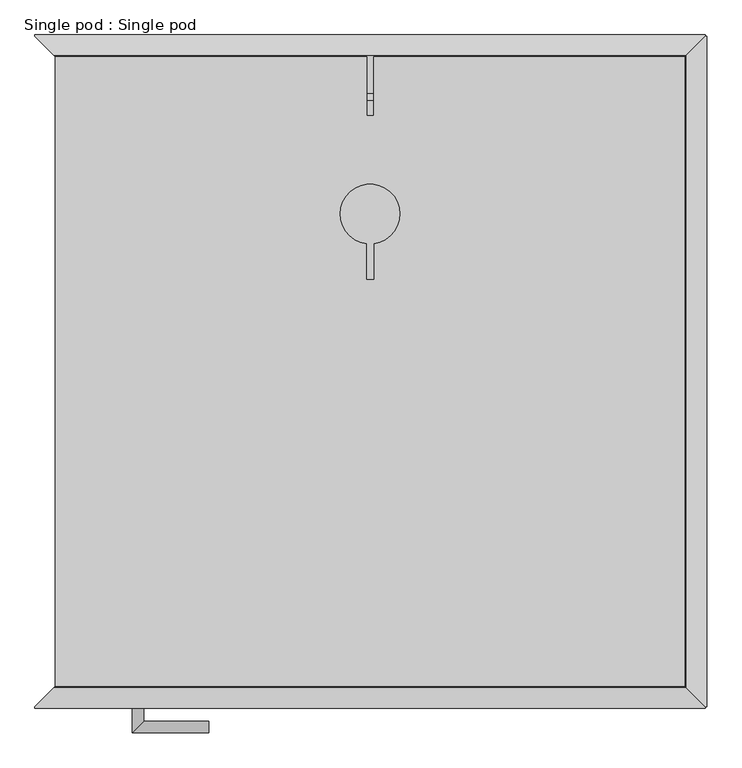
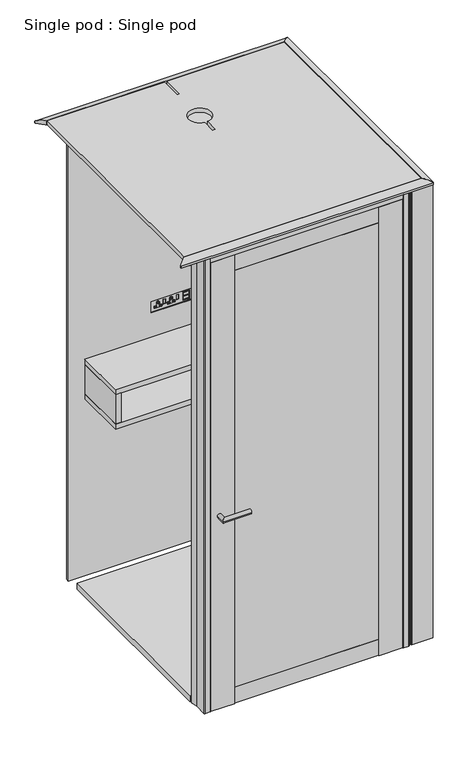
"""IFC4 building model written with IfcOpenShell, lengths in millimetres: furniture geometry, Single pod : Single pod."""

from ifc_helpers import new_model, si_unit, point, frame, frame_2d, origin, place, context, project, spatial, polyline, circle_curve, ellipse_curve, trimmed, segment, composite_curve, outline, extrude, source, transform, mapped, element, save
from ifc_brep_helpers import plane_surface, cylinder_surface, revolved_surface, extruded_surface, advanced_brep


def single_pod_single_pod_233d3e17(model_context):
    return source(origin(), model_context, "Body", "SolidModel", [
        extrude(outline(composite_curve([segment(polyline([(435.0, -523.0), (424.4043081, -523.0)]), True, "CONTINUOUS"), segment(trimmed(circle_curve(frame_2d((496.7618096, -519.6280891)), 72.4360256), [point((424.4043081, -523.0))], [point((439.9047305, -474.7476885))], False, "CARTESIAN"), True, "CONTINUOUS"), segment(polyline([(439.9047305, -474.7476885), (465.3741971, -474.7476885)]), True, "CONTINUOUS"), segment(trimmed(circle_curve(frame_2d((461.5364267, -480.8971365)), 7.2487373), [point((465.3741971, -474.7476885))], [point((468.7808901, -480.6482537))], False, "CARTESIAN"), True, "CONTINUOUS"), segment(polyline([(468.7808901, -480.6482537), (463.0, -511.0), (463.0, -569.0)]), True, "CONTINUOUS"), segment(trimmed(circle_curve(frame_2d((461.0, -569.0)), 2.0), [point((463.0, -569.0))], [point((461.0, -571.0))], False, "CARTESIAN"), True, "CONTINUOUS"), segment(polyline([(461.0, -571.0), (437.0, -571.0)]), True, "CONTINUOUS"), segment(trimmed(circle_curve(frame_2d((437.0, -569.0)), 2.0), [point((437.0, -571.0))], [point((435.0, -569.0))], False, "CARTESIAN"), True, "CONTINUOUS"), segment(polyline([(435.0, -569.0), (435.0, -523.0)]), True, "CONTINUOUS")], self_intersect=False)), frame((0.0, 0.0, 33.1), z_axis=(0.0, 0.0, 1.0), x_axis=(1.0, 0.0, 0.0)), (0.0, 0.0, 1.0), 2165.0),
        extrude(outline(composite_curve([segment(polyline([(-571.0, 2177.1), (-571.0, 2198.1), (-479.0, 2198.1), (-479.0, 2115.1)]), True, "CONTINUOUS"), segment(trimmed(circle_curve(frame_2d((-525.0535098, 2145.0184581)), 54.9184842), [point((-479.0, 2115.1))], [point((-525.0, 2090.1))], False, "CARTESIAN"), True, "CONTINUOUS"), segment(polyline([(-525.0, 2090.1), (-525.0, 2177.1), (-571.0, 2177.1)]), True, "CONTINUOUS")], self_intersect=False)), frame((-435.0, 0.0, 0.0), z_axis=(1.0, 0.0, 0.0), x_axis=(0.0, 1.0, 0.0)), (0.0, 0.0, 1.0), 870.0),
        extrude(outline(composite_curve([segment(polyline([(-435.0, -523.0), (-435.0, -569.0)]), True, "CONTINUOUS"), segment(trimmed(circle_curve(frame_2d((-437.0, -569.0)), 2.0), [point((-435.0, -569.0))], [point((-437.0, -571.0))], False, "CARTESIAN"), True, "CONTINUOUS"), segment(polyline([(-437.0, -571.0), (-461.0, -571.0)]), True, "CONTINUOUS"), segment(trimmed(circle_curve(frame_2d((-461.0, -569.0)), 2.0), [point((-461.0, -571.0))], [point((-463.0, -569.0))], False, "CARTESIAN"), True, "CONTINUOUS"), segment(polyline([(-463.0, -569.0), (-463.0, -511.0), (-468.7808901, -480.6482537)]), True, "CONTINUOUS"), segment(trimmed(circle_curve(frame_2d((-461.5364267, -480.8971365)), 7.2487373), [point((-468.7808901, -480.6482537))], [point((-465.3741971, -474.7476885))], False, "CARTESIAN"), True, "CONTINUOUS"), segment(polyline([(-465.3741971, -474.7476885), (-439.9047305, -474.7476885)]), True, "CONTINUOUS"), segment(trimmed(circle_curve(frame_2d((-496.7618096, -519.6280891)), 72.4360256), [point((-439.9047305, -474.7476885))], [point((-424.4043081, -523.0))], False, "CARTESIAN"), True, "CONTINUOUS"), segment(polyline([(-424.4043081, -523.0), (-435.0, -523.0)]), True, "CONTINUOUS")], self_intersect=False)), frame((0.0, 0.0, 33.1), z_axis=(0.0, 0.0, 1.0), x_axis=(1.0, 0.0, 0.0)), (0.0, 0.0, 1.0), 2165.0),
        advanced_brep(
        [(-384.5, -569.0, 953.1), (-404.5, -569.0, 953.1), (-384.5, -594.0, 953.1), (-404.5, -614.0, 953.1), (-274.5, -594.0, 953.1), (-274.5, -614.0, 953.1)],
        [
            (0, 1, circle_curve(frame((-394.5, -569.0, 953.1), z_axis=(0.0, 1.0, 0.0), x_axis=(-1.0000000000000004, 0.0, 0.0)), 10.0)),
            (1, 0, circle_curve(frame((-394.5, -569.0, 953.1), z_axis=(0.0, 1.0, 0.0), x_axis=(-1.0000000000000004, 0.0, 0.0)), 10.0)),
            (0, 2),
            (2, 3, ellipse_curve(frame((-394.5, -604.0, 953.1), z_axis=(-0.7071067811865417, 0.7071067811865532, 0.0), x_axis=(0.7071067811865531, 0.707106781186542, 0.0)), 14.1421356, 10.0)),
            (3, 1),
            (3, 2, ellipse_curve(frame((-394.5, -604.0, 953.1), z_axis=(-0.7071067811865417, 0.7071067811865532, 0.0), x_axis=(0.7071067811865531, 0.707106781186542, 0.0)), 14.1421356, 10.0)),
            (4, 5, circle_curve(frame((-274.5, -604.0, 953.1), z_axis=(1.0, 0.0, 0.0), x_axis=(0.0, -1.0000000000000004, 0.0)), 10.0)),
            (5, 4, circle_curve(frame((-274.5, -604.0, 953.1), z_axis=(1.0, 0.0, 0.0), x_axis=(0.0, -1.0000000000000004, 0.0)), 10.0)),
            (2, 4),
            (5, 3),
        ],
        [
            plane_surface(frame((-394.5, -569.0, 33.1), z_axis=(0.0, 1.0, 0.0), x_axis=(0.0, 0.0, 1.0))),
            cylinder_surface(frame((-394.5, -569.0, 953.1), z_axis=(0.0, 1.0000000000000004, 0.0), x_axis=(-1.0000000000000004, 0.0, 0.0)), 10.0),
            plane_surface(frame((-274.5, -604.0, 33.1), z_axis=(1.0, 0.0, 0.0), x_axis=(0.0, 0.0, 1.0))),
            cylinder_surface(frame((-394.5, -604.0, 953.1), z_axis=(-1.0000000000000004, 0.0, 0.0), x_axis=(0.0, -1.0000000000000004, 0.0)), 10.0),
        ],
        [
            (0, [[1, 2]]),
            (1, [[-1, 3, 4, 5]]),
            (1, [[-2, -5, 6, -3]]),
            (2, [[7, 8]]),
            (3, [[-4, 9, -8, 10]]),
            (3, [[-6, -10, -7, -9]]),
        ],
    ),
        extrude(outline(polyline([(-327.0, -565.5), (-327.0, -547.0), (-327.0, -528.5), (327.0, -528.5), (327.0, -565.5), (-327.0, -565.5)])), frame((0.0, 0.0, 33.1), z_axis=(0.0, 0.0, 1.0), x_axis=(1.0, 0.0, 0.0)), (0.0, 0.0, 1.0), 77.0),
        extrude(outline(polyline([(327.0, -566.0), (-327.0, -566.0), (-327.0, -556.0), (327.0, -556.0), (327.0, -566.0)])), frame((0.0, 0.0, 110.1), z_axis=(0.0, 0.0, 1.0), x_axis=(1.0, 0.0, 0.0)), (0.0, 0.0, 1.0), 1987.0),
        extrude(outline(polyline([(-327.0, -565.5), (-327.0, -547.0), (-327.0, -528.5), (327.0, -528.5), (327.0, -565.5), (-327.0, -565.5)])), frame((0.0, 0.0, 2097.1), z_axis=(0.0, 0.0, 1.0), x_axis=(1.0, 0.0, 0.0)), (0.0, 0.0, 1.0), 77.0),
        extrude(outline(polyline([(432.0, -569.0), (327.0, -569.0), (327.0, -525.0), (432.0, -525.0), (432.0, -569.0)])), frame((0.0, 0.0, 33.1), z_axis=(0.0, 0.0, 1.0), x_axis=(1.0, 0.0, 0.0)), (0.0, 0.0, 1.0), 2141.0),
        extrude(outline(polyline([(-432.0, -569.0), (-432.0, -525.0), (-327.0, -525.0), (-327.0, -569.0), (-432.0, -569.0)])), frame((0.0, 0.0, 33.1), z_axis=(0.0, 0.0, 1.0), x_axis=(1.0, 0.0, 0.0)), (0.0, 0.0, 1.0), 2141.0),
        extrude(outline(polyline([(26.6407935, 482.1505149), (16.6407935, 482.1505149), (16.6407935, 489.5), (26.6407935, 489.5), (26.6407935, 482.1505149)])), frame((0.0, 0.0, 1204.790417), z_axis=(0.0, 0.0, 1.0), x_axis=(1.0, 0.0, 0.0)), (0.0, 0.0, 1.0), 22.4507355),
        extrude(outline(polyline([(-33.0619869, 482.1505149), (-43.0619869, 482.1505149), (-43.0619869, 489.5), (-33.0619869, 489.5), (-33.0619869, 482.1505149)])), frame((0.0, 0.0, 1204.790417), z_axis=(0.0, 0.0, 1.0), x_axis=(1.0, 0.0, 0.0)), (0.0, 0.0, 1.0), 22.4507355),
        extrude(outline(polyline([(1192.603489, 75.4766828), (1232.603489, 75.4766828), (1232.603489, 45.4766828), (1192.603489, 45.4766828), (1192.603489, 75.4766828)]), holes=[polyline([(1213.7227785, 72.7906471), (1213.7227785, 48.3542366), (1228.7227785, 48.3542366), (1228.7227785, 72.7906471), (1213.7227785, 72.7906471)]), polyline([(1210.5964841, 72.7906471), (1195.941979, 72.7906471), (1195.941979, 48.3899353), (1210.5964841, 48.3899353), (1210.5964841, 72.7906471)])]), frame((0.0, 477.078573, 0.0), z_axis=(0.0, 1.0, 0.0), x_axis=(0.0, 0.0, 1.0)), (0.0, 0.0, 1.0), 2.6132921),
        advanced_brep(
        [(6.0, 477.078573, 1198.8848009), (9.4198139, 477.078573, 1202.3046148), (9.4198139, 477.078573, 1205.4649871), (6.0, 477.078573, 1208.8848009), (1.8721647, 477.078573, 1208.8848009), (-2.0325047, 477.078573, 1212.7894703), (-2.0325047, 477.078573, 1223.8848009), (-7.0325047, 477.078573, 1228.8848009), (-9.1278676, 477.078573, 1228.8848009), (-14.1278676, 477.078573, 1223.8848009), (-14.1278676, 477.078573, 1212.7894703), (-18.0325369, 477.078573, 1208.8848009), (-22.1603722, 477.078573, 1208.8848009), (-25.5801861, 477.078573, 1205.4649871), (-25.5801861, 477.078573, 1202.3046148), (-22.1603722, 477.078573, 1198.8848009), (-14.1278676, 477.078573, 1204.0369225), (-21.9496616, 477.078573, 1204.0369225), (-2.0325047, 477.078573, 1204.0369225), (5.7892894, 477.078573, 1204.0369225), (-7.9291063, 477.078573, 1216.9987012), (-7.9291063, 477.078573, 1224.8204952), (6.0, 479.6918651, 1198.8848009), (-22.1603722, 479.6918651, 1198.8848009), (-25.5801861, 479.6918651, 1202.3046148), (-25.5801861, 479.6918651, 1205.4649871), (-22.1603722, 479.6918651, 1208.8848009), (-18.0325369, 479.6918651, 1208.8848009), (-14.1278676, 479.6918651, 1212.7894703), (-14.1278676, 479.6918651, 1223.8848009), (-9.1278676, 479.6918651, 1228.8848009), (-7.0325047, 479.6918651, 1228.8848009), (-2.0325047, 479.6918651, 1223.8848009), (-2.0325047, 479.6918651, 1212.7894703), (1.8721647, 479.6918651, 1208.8848009), (6.0, 479.6918651, 1208.8848009), (9.4198139, 479.6918651, 1205.4649871), (9.4198139, 479.6918651, 1202.3046148), (-14.1278676, 479.6918651, 1204.0369225), (-21.9496616, 479.6918651, 1204.0369225), (-2.0325047, 479.6918651, 1204.0369225), (5.7892894, 479.6918651, 1204.0369225), (-7.9291063, 479.6918651, 1216.9987012), (-7.9291063, 479.6918651, 1224.8204952)],
        [
            (0, 1, circle_curve(frame((6.0, 477.078573, 1202.3046148), z_axis=(0.0, -1.0, 0.0), x_axis=(-1.0, 0.0, 0.0)), 3.4198139)),
            (1, 2),
            (2, 3, circle_curve(frame((6.0, 477.078573, 1205.4649871), z_axis=(0.0, -1.0, 0.0), x_axis=(-1.0, 0.0, 0.0)), 3.4198139)),
            (3, 4),
            (4, 5, circle_curve(frame((1.8721647, 477.078573, 1212.7894703), z_axis=(0.0, 1.0, 0.0), x_axis=(-1.0, 0.0, 0.0)), 3.9046693)),
            (5, 6),
            (6, 7, circle_curve(frame((-7.0325047, 477.078573, 1223.8848009), z_axis=(0.0, -1.0, 0.0), x_axis=(-1.0, 0.0, 0.0)), 5.0)),
            (7, 8),
            (8, 9, circle_curve(frame((-9.1278676, 477.078573, 1223.8848009), z_axis=(0.0, -1.0, 0.0), x_axis=(-1.0, 0.0, 0.0)), 5.0)),
            (9, 10),
            (10, 11, circle_curve(frame((-18.0325369, 477.078573, 1212.7894703), z_axis=(0.0, 1.0, 0.0), x_axis=(-1.0, 0.0, 0.0)), 3.9046693)),
            (11, 12),
            (12, 13, circle_curve(frame((-22.1603722, 477.078573, 1205.4649871), z_axis=(0.0, -1.0, 0.0), x_axis=(-1.0, 0.0, 0.0)), 3.4198139)),
            (13, 14),
            (14, 15, circle_curve(frame((-22.1603722, 477.078573, 1202.3046148), z_axis=(0.0, -1.0, 0.0), x_axis=(-1.0, 0.0, 0.0)), 3.4198139)),
            (15, 0),
            (16, 17, ellipse_curve(frame((-18.0387646, 477.078573, 1204.0369225), z_axis=(0.0, 1.0, 0.0), x_axis=(-1.0, 0.0, 0.0)), 3.910897, 1.7393415)),
            (17, 16, ellipse_curve(frame((-18.0387646, 477.078573, 1204.0369225), z_axis=(0.0, 1.0, 0.0), x_axis=(-1.0, 0.0, 0.0)), 3.910897, 1.7393415)),
            (18, 19, ellipse_curve(frame((1.8783923, 477.078573, 1204.0369225), z_axis=(0.0, 1.0, 0.0), x_axis=(1.0, 0.0, 0.0)), 3.910897, 1.7393415)),
            (19, 18, ellipse_curve(frame((1.8783923, 477.078573, 1204.0369225), z_axis=(0.0, 1.0, 0.0), x_axis=(1.0, 0.0, 0.0)), 3.910897, 1.7393415)),
            (20, 21, ellipse_curve(frame((-7.9291063, 477.078573, 1220.9095982), z_axis=(0.0, 1.0, 0.0), x_axis=(0.0, 0.0, 1.0)), 3.910897, 1.7393415)),
            (21, 20, ellipse_curve(frame((-7.9291063, 477.078573, 1220.9095982), z_axis=(0.0, 1.0, 0.0), x_axis=(0.0, 0.0, 1.0)), 3.910897, 1.7393415)),
            (22, 23),
            (23, 24, circle_curve(frame((-22.1603722, 479.6918651, 1202.3046148), z_axis=(0.0, 1.0, 0.0), x_axis=(-1.0, 0.0, 0.0)), 3.4198139)),
            (24, 25),
            (25, 26, circle_curve(frame((-22.1603722, 479.6918651, 1205.4649871), z_axis=(0.0, 1.0, 0.0), x_axis=(-1.0, 0.0, 0.0)), 3.4198139)),
            (26, 27),
            (27, 28, circle_curve(frame((-18.0325369, 479.6918651, 1212.7894703), z_axis=(0.0, -1.0, 0.0), x_axis=(-1.0, 0.0, 0.0)), 3.9046693)),
            (28, 29),
            (29, 30, circle_curve(frame((-9.1278676, 479.6918651, 1223.8848009), z_axis=(0.0, 1.0, 0.0), x_axis=(-1.0, 0.0, 0.0)), 5.0)),
            (30, 31),
            (31, 32, circle_curve(frame((-7.0325047, 479.6918651, 1223.8848009), z_axis=(0.0, 1.0, 0.0), x_axis=(-1.0, 0.0, 0.0)), 5.0)),
            (32, 33),
            (33, 34, circle_curve(frame((1.8721647, 479.6918651, 1212.7894703), z_axis=(0.0, -1.0, 0.0), x_axis=(-1.0, 0.0, 0.0)), 3.9046693)),
            (34, 35),
            (35, 36, circle_curve(frame((6.0, 479.6918651, 1205.4649871), z_axis=(0.0, 1.0, 0.0), x_axis=(-1.0, 0.0, 0.0)), 3.4198139)),
            (36, 37),
            (37, 22, circle_curve(frame((6.0, 479.6918651, 1202.3046148), z_axis=(0.0, 1.0, 0.0), x_axis=(-1.0, 0.0, 0.0)), 3.4198139)),
            (38, 39, ellipse_curve(frame((-18.0387646, 479.6918651, 1204.0369225), z_axis=(0.0, -1.0, 0.0), x_axis=(-1.0, 0.0, 0.0)), 3.910897, 1.7393415)),
            (39, 38, ellipse_curve(frame((-18.0387646, 479.6918651, 1204.0369225), z_axis=(0.0, -1.0, 0.0), x_axis=(-1.0, 0.0, 0.0)), 3.910897, 1.7393415)),
            (40, 41, ellipse_curve(frame((1.8783923, 479.6918651, 1204.0369225), z_axis=(0.0, -1.0, 0.0), x_axis=(1.0, 0.0, 0.0)), 3.910897, 1.7393415)),
            (41, 40, ellipse_curve(frame((1.8783923, 479.6918651, 1204.0369225), z_axis=(0.0, -1.0, 0.0), x_axis=(1.0, 0.0, 0.0)), 3.910897, 1.7393415)),
            (42, 43, ellipse_curve(frame((-7.9291063, 479.6918651, 1220.9095982), z_axis=(0.0, -1.0, 0.0), x_axis=(0.0, 0.0, 1.0)), 3.910897, 1.7393415)),
            (43, 42, ellipse_curve(frame((-7.9291063, 479.6918651, 1220.9095982), z_axis=(0.0, -1.0, 0.0), x_axis=(0.0, 0.0, 1.0)), 3.910897, 1.7393415)),
            (0, 22),
            (37, 1),
            (36, 2),
            (35, 3),
            (34, 4),
            (33, 5),
            (32, 6),
            (31, 7),
            (30, 8),
            (29, 9),
            (28, 10),
            (27, 11),
            (26, 12),
            (25, 13),
            (24, 14),
            (23, 15),
            (16, 38),
            (39, 17),
            (18, 40),
            (41, 19),
            (20, 42),
            (43, 21),
        ],
        [
            plane_surface(frame((2.5801861, 477.078573, 1202.3046148), z_axis=(0.0, -1.0, 0.0), x_axis=(0.0, 0.0, -1.0))),
            plane_surface(frame((2.5801861, 479.6918651, 1202.3046148), z_axis=(0.0, 1.0, 0.0), x_axis=(0.0, 0.0, 1.0))),
            cylinder_surface(frame((6.0, 479.6918651, 1202.3046148), z_axis=(0.0, -1.0, 0.0), x_axis=(-1.0, 0.0, 0.0)), 3.4198139),
            plane_surface(frame((9.4198139, 477.078573, 1202.3046148), z_axis=(1.0, 0.0, 0.0), x_axis=(0.0, 1.0, 0.0))),
            cylinder_surface(frame((6.0, 479.6918651, 1205.4649871), z_axis=(0.0, -1.0, 0.0), x_axis=(-1.0, 0.0, 0.0)), 3.4198139),
            plane_surface(frame((6.0, 477.078573, 1208.8848009), z_axis=(0.0, 0.0, 1.0), x_axis=(0.0, 1.0, 0.0))),
            revolved_surface(polyline([(-2.0325046, 479.6918651, 1212.7894703), (-2.0325046, 477.078573, 1212.7894703)]), (1.8721647, 479.6918651, 1212.7894703), (0.0, 1.0, 0.0)),
            plane_surface(frame((-2.0325047, 477.078573, 1212.7894703), z_axis=(1.0, 0.0, 0.0), x_axis=(0.0, 1.0, 0.0))),
            cylinder_surface(frame((-7.0325047, 479.6918651, 1223.8848009), z_axis=(0.0, -1.0, 0.0), x_axis=(-1.0, 0.0, 0.0)), 5.0),
            plane_surface(frame((-7.0325047, 477.078573, 1228.8848009), z_axis=(0.0, 0.0, 1.0), x_axis=(0.0, 1.0, 0.0))),
            cylinder_surface(frame((-9.1278676, 479.6918651, 1223.8848009), z_axis=(0.0, -1.0, 0.0), x_axis=(-1.0, 0.0, 0.0)), 5.0),
            plane_surface(frame((-14.1278676, 477.078573, 1223.8848009), z_axis=(-1.0, 0.0, 0.0), x_axis=(0.0, 1.0, 0.0))),
            revolved_surface(polyline([(-21.9372062, 479.6918651, 1212.7894703), (-21.9372062, 477.078573, 1212.7894703)]), (-18.0325369, 479.6918651, 1212.7894703), (0.0, 1.0, 0.0)),
            plane_surface(frame((-18.0325369, 477.078573, 1208.8848009), z_axis=(0.0, 0.0, 1.0), x_axis=(0.0, 1.0, 0.0))),
            cylinder_surface(frame((-22.1603722, 479.6918651, 1205.4649871), z_axis=(0.0, -1.0, 0.0), x_axis=(-1.0, 0.0, 0.0)), 3.4198139),
            plane_surface(frame((-25.5801861, 477.078573, 1205.4649871), z_axis=(-1.0, 0.0, 0.0), x_axis=(0.0, 1.0, 0.0))),
            cylinder_surface(frame((-22.1603722, 479.6918651, 1202.3046148), z_axis=(0.0, -1.0, 0.0), x_axis=(-1.0, 0.0, 0.0)), 3.4198139),
            plane_surface(frame((-22.1603722, 477.078573, 1198.8848009), z_axis=(0.0, 0.0, -1.0), x_axis=(0.0, 1.0, 0.0))),
            extruded_surface(trimmed(ellipse_curve(frame((-18.0387646, -566.8867079, 1204.0369225), z_axis=(0.0, 1.0, 0.0), x_axis=(-1.0, 0.0, 0.0)), 3.910897, 1.7393415), [point((-14.1278676, -566.8867079, 1204.0369225))], [point((-21.9496616, -566.8867079, 1204.0369225))], True, "CARTESIAN"), (0.0, -2.613292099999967, 0.0), 2.613292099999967),
            extruded_surface(trimmed(ellipse_curve(frame((-18.0387646, -566.8867079, 1204.0369225), z_axis=(0.0, 1.0, 0.0), x_axis=(-1.0, 0.0, 0.0)), 3.910897, 1.7393415), [point((-21.9496616, -566.8867079, 1204.0369225))], [point((-14.1278676, -566.8867079, 1204.0369225))], True, "CARTESIAN"), (0.0, -2.613292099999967, 0.0), 2.613292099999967),
            extruded_surface(trimmed(ellipse_curve(frame((1.8783923, -566.8867079, 1204.0369225), z_axis=(0.0, 1.0, 0.0), x_axis=(1.0, 0.0, 0.0)), 3.910897, 1.7393415), [point((-2.0325047, -566.8867079, 1204.0369225))], [point((5.7892894, -566.8867079, 1204.0369225))], True, "CARTESIAN"), (0.0, -2.613292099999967, 0.0), 2.613292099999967),
            extruded_surface(trimmed(ellipse_curve(frame((1.8783923, -566.8867079, 1204.0369225), z_axis=(0.0, 1.0, 0.0), x_axis=(1.0, 0.0, 0.0)), 3.910897, 1.7393415), [point((5.7892894, -566.8867079, 1204.0369225))], [point((-2.0325047, -566.8867079, 1204.0369225))], True, "CARTESIAN"), (0.0, -2.613292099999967, 0.0), 2.613292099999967),
            extruded_surface(trimmed(ellipse_curve(frame((-7.9291063, -566.8867079, 1220.9095982), z_axis=(0.0, 1.0, 0.0), x_axis=(0.0, 0.0, 1.0)), 3.910897, 1.7393415), [point((-7.9291063, -566.8867079, 1216.9987012))], [point((-7.9291063, -566.8867079, 1224.8204952))], True, "CARTESIAN"), (0.0, -2.613292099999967, 0.0), 2.613292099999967),
            extruded_surface(trimmed(ellipse_curve(frame((-7.9291063, -566.8867079, 1220.9095982), z_axis=(0.0, 1.0, 0.0), x_axis=(0.0, 0.0, 1.0)), 3.910897, 1.7393415), [point((-7.9291063, -566.8867079, 1224.8204952))], [point((-7.9291063, -566.8867079, 1216.9987012))], True, "CARTESIAN"), (0.0, -2.613292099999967, 0.0), 2.613292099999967),
        ],
        [
            (0, [[1, 2, 3, 4, 5, 6, 7, 8, 9, 10, 11, 12, 13, 14, 15, 16], [17, 18], [19, 20], [21, 22]]),
            (1, [[23, 24, 25, 26, 27, 28, 29, 30, 31, 32, 33, 34, 35, 36, 37, 38], [39, 40], [41, 42], [43, 44]]),
            (2, [[-1, 45, -38, 46]]),
            (3, [[-2, -46, -37, 47]]),
            (4, [[-3, -47, -36, 48]]),
            (5, [[-4, -48, -35, 49]]),
            (6, [[-5, -49, -34, 50]]),
            (7, [[-6, -50, -33, 51]]),
            (8, [[-7, -51, -32, 52]]),
            (9, [[-8, -52, -31, 53]]),
            (10, [[-9, -53, -30, 54]]),
            (11, [[-10, -54, -29, 55]]),
            (12, [[-11, -55, -28, 56]]),
            (13, [[-12, -56, -27, 57]]),
            (14, [[-13, -57, -26, 58]]),
            (15, [[-14, -58, -25, 59]]),
            (16, [[-15, -59, -24, 60]]),
            (17, [[-16, -60, -23, -45]]),
            (18, [[-17, 61, -40, 62]]),
            (19, [[-18, -62, -39, -61]]),
            (20, [[-19, 63, -42, 64]]),
            (21, [[-20, -64, -41, -63]]),
            (22, [[-21, 65, -44, 66]]),
            (23, [[-22, -66, -43, -65]]),
        ],
    ),
        advanced_brep(
        [(-53.7027804, 477.078573, 1198.8848009), (-50.2829665, 477.078573, 1202.3046148), (-50.2829665, 477.078573, 1205.4649871), (-53.7027804, 477.078573, 1208.8848009), (-57.8306157, 477.078573, 1208.8848009), (-61.7352851, 477.078573, 1212.7894703), (-61.7352851, 477.078573, 1223.8848009), (-66.7352851, 477.078573, 1228.8848009), (-68.830648, 477.078573, 1228.8848009), (-73.830648, 477.078573, 1223.8848009), (-73.830648, 477.078573, 1212.7894703), (-77.7353173, 477.078573, 1208.8848009), (-81.8631526, 477.078573, 1208.8848009), (-85.2829665, 477.078573, 1205.4649871), (-85.2829665, 477.078573, 1202.3046148), (-81.8631526, 477.078573, 1198.8848009), (-73.830648, 477.078573, 1204.0369225), (-81.652442, 477.078573, 1204.0369225), (-61.7352851, 477.078573, 1204.0369225), (-53.913491, 477.078573, 1204.0369225), (-67.6318867, 477.078573, 1216.9987012), (-67.6318867, 477.078573, 1224.8204952), (-53.7027804, 479.6918651, 1198.8848009), (-81.8631526, 479.6918651, 1198.8848009), (-85.2829665, 479.6918651, 1202.3046148), (-85.2829665, 479.6918651, 1205.4649871), (-81.8631526, 479.6918651, 1208.8848009), (-77.7353173, 479.6918651, 1208.8848009), (-73.830648, 479.6918651, 1212.7894703), (-73.830648, 479.6918651, 1223.8848009), (-68.830648, 479.6918651, 1228.8848009), (-66.7352851, 479.6918651, 1228.8848009), (-61.7352851, 479.6918651, 1223.8848009), (-61.7352851, 479.6918651, 1212.7894703), (-57.8306157, 479.6918651, 1208.8848009), (-53.7027804, 479.6918651, 1208.8848009), (-50.2829665, 479.6918651, 1205.4649871), (-50.2829665, 479.6918651, 1202.3046148), (-73.830648, 479.6918651, 1204.0369225), (-81.652442, 479.6918651, 1204.0369225), (-61.7352851, 479.6918651, 1204.0369225), (-53.913491, 479.6918651, 1204.0369225), (-67.6318867, 479.6918651, 1216.9987012), (-67.6318867, 479.6918651, 1224.8204952)],
        [
            (0, 1, circle_curve(frame((-53.7027804, 477.078573, 1202.3046148), z_axis=(0.0, -1.0, 0.0), x_axis=(-1.0, 0.0, 0.0)), 3.4198139)),
            (1, 2),
            (2, 3, circle_curve(frame((-53.7027804, 477.078573, 1205.4649871), z_axis=(0.0, -1.0, 0.0), x_axis=(-1.0, 0.0, 0.0)), 3.4198139)),
            (3, 4),
            (4, 5, circle_curve(frame((-57.8306157, 477.078573, 1212.7894703), z_axis=(0.0, 1.0, 0.0), x_axis=(-1.0, 0.0, 0.0)), 3.9046693)),
            (5, 6),
            (6, 7, circle_curve(frame((-66.7352851, 477.078573, 1223.8848009), z_axis=(0.0, -1.0, 0.0), x_axis=(-1.0, 0.0, 0.0)), 5.0)),
            (7, 8),
            (8, 9, circle_curve(frame((-68.830648, 477.078573, 1223.8848009), z_axis=(0.0, -1.0, 0.0), x_axis=(-1.0, 0.0, 0.0)), 5.0)),
            (9, 10),
            (10, 11, circle_curve(frame((-77.7353173, 477.078573, 1212.7894703), z_axis=(0.0, 1.0, 0.0), x_axis=(-1.0, 0.0, 0.0)), 3.9046693)),
            (11, 12),
            (12, 13, circle_curve(frame((-81.8631526, 477.078573, 1205.4649871), z_axis=(0.0, -1.0, 0.0), x_axis=(-1.0, 0.0, 0.0)), 3.4198139)),
            (13, 14),
            (14, 15, circle_curve(frame((-81.8631526, 477.078573, 1202.3046148), z_axis=(0.0, -1.0, 0.0), x_axis=(-1.0, 0.0, 0.0)), 3.4198139)),
            (15, 0),
            (16, 17, ellipse_curve(frame((-77.741545, 477.078573, 1204.0369225), z_axis=(0.0, 1.0, 0.0), x_axis=(-1.0, 0.0, 0.0)), 3.910897, 1.7393415)),
            (17, 16, ellipse_curve(frame((-77.741545, 477.078573, 1204.0369225), z_axis=(0.0, 1.0, 0.0), x_axis=(-1.0, 0.0, 0.0)), 3.910897, 1.7393415)),
            (18, 19, ellipse_curve(frame((-57.824388, 477.078573, 1204.0369225), z_axis=(0.0, 1.0, 0.0), x_axis=(1.0, 0.0, 0.0)), 3.910897, 1.7393415)),
            (19, 18, ellipse_curve(frame((-57.824388, 477.078573, 1204.0369225), z_axis=(0.0, 1.0, 0.0), x_axis=(1.0, 0.0, 0.0)), 3.910897, 1.7393415)),
            (20, 21, ellipse_curve(frame((-67.6318867, 477.078573, 1220.9095982), z_axis=(0.0, 1.0, 0.0), x_axis=(0.0, 0.0, 1.0)), 3.910897, 1.7393415)),
            (21, 20, ellipse_curve(frame((-67.6318867, 477.078573, 1220.9095982), z_axis=(0.0, 1.0, 0.0), x_axis=(0.0, 0.0, 1.0)), 3.910897, 1.7393415)),
            (22, 23),
            (23, 24, circle_curve(frame((-81.8631526, 479.6918651, 1202.3046148), z_axis=(0.0, 1.0, 0.0), x_axis=(-1.0, 0.0, 0.0)), 3.4198139)),
            (24, 25),
            (25, 26, circle_curve(frame((-81.8631526, 479.6918651, 1205.4649871), z_axis=(0.0, 1.0, 0.0), x_axis=(-1.0, 0.0, 0.0)), 3.4198139)),
            (26, 27),
            (27, 28, circle_curve(frame((-77.7353173, 479.6918651, 1212.7894703), z_axis=(0.0, -1.0, 0.0), x_axis=(-1.0, 0.0, 0.0)), 3.9046693)),
            (28, 29),
            (29, 30, circle_curve(frame((-68.830648, 479.6918651, 1223.8848009), z_axis=(0.0, 1.0, 0.0), x_axis=(-1.0, 0.0, 0.0)), 5.0)),
            (30, 31),
            (31, 32, circle_curve(frame((-66.7352851, 479.6918651, 1223.8848009), z_axis=(0.0, 1.0, 0.0), x_axis=(-1.0, 0.0, 0.0)), 5.0)),
            (32, 33),
            (33, 34, circle_curve(frame((-57.8306157, 479.6918651, 1212.7894703), z_axis=(0.0, -1.0, 0.0), x_axis=(-1.0, 0.0, 0.0)), 3.9046693)),
            (34, 35),
            (35, 36, circle_curve(frame((-53.7027804, 479.6918651, 1205.4649871), z_axis=(0.0, 1.0, 0.0), x_axis=(-1.0, 0.0, 0.0)), 3.4198139)),
            (36, 37),
            (37, 22, circle_curve(frame((-53.7027804, 479.6918651, 1202.3046148), z_axis=(0.0, 1.0, 0.0), x_axis=(-1.0, 0.0, 0.0)), 3.4198139)),
            (38, 39, ellipse_curve(frame((-77.741545, 479.6918651, 1204.0369225), z_axis=(0.0, -1.0, 0.0), x_axis=(-1.0, 0.0, 0.0)), 3.910897, 1.7393415)),
            (39, 38, ellipse_curve(frame((-77.741545, 479.6918651, 1204.0369225), z_axis=(0.0, -1.0, 0.0), x_axis=(-1.0, 0.0, 0.0)), 3.910897, 1.7393415)),
            (40, 41, ellipse_curve(frame((-57.824388, 479.6918651, 1204.0369225), z_axis=(0.0, -1.0, 0.0), x_axis=(1.0, 0.0, 0.0)), 3.910897, 1.7393415)),
            (41, 40, ellipse_curve(frame((-57.824388, 479.6918651, 1204.0369225), z_axis=(0.0, -1.0, 0.0), x_axis=(1.0, 0.0, 0.0)), 3.910897, 1.7393415)),
            (42, 43, ellipse_curve(frame((-67.6318867, 479.6918651, 1220.9095982), z_axis=(0.0, -1.0, 0.0), x_axis=(0.0, 0.0, 1.0)), 3.910897, 1.7393415)),
            (43, 42, ellipse_curve(frame((-67.6318867, 479.6918651, 1220.9095982), z_axis=(0.0, -1.0, 0.0), x_axis=(0.0, 0.0, 1.0)), 3.910897, 1.7393415)),
            (0, 22),
            (37, 1),
            (36, 2),
            (35, 3),
            (34, 4),
            (33, 5),
            (32, 6),
            (31, 7),
            (30, 8),
            (29, 9),
            (28, 10),
            (27, 11),
            (26, 12),
            (25, 13),
            (24, 14),
            (23, 15),
            (16, 38),
            (39, 17),
            (18, 40),
            (41, 19),
            (20, 42),
            (43, 21),
        ],
        [
            plane_surface(frame((-57.1225943, 477.078573, 1202.3046148), z_axis=(0.0, -1.0, 0.0), x_axis=(0.0, 0.0, -1.0))),
            plane_surface(frame((-57.1225943, 479.6918651, 1202.3046148), z_axis=(0.0, 1.0, 0.0), x_axis=(0.0, 0.0, 1.0))),
            cylinder_surface(frame((-53.7027804, 479.6918651, 1202.3046148), z_axis=(0.0, -1.0, 0.0), x_axis=(-1.0, 0.0, 0.0)), 3.4198139),
            plane_surface(frame((-50.2829665, 477.078573, 1202.3046148), z_axis=(1.0, 0.0, 0.0), x_axis=(0.0, 1.0, 0.0))),
            cylinder_surface(frame((-53.7027804, 479.6918651, 1205.4649871), z_axis=(0.0, -1.0, 0.0), x_axis=(-1.0, 0.0, 0.0)), 3.4198139),
            plane_surface(frame((-53.7027804, 477.078573, 1208.8848009), z_axis=(0.0, 0.0, 1.0), x_axis=(0.0, 1.0, 0.0))),
            revolved_surface(polyline([(-61.735285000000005, 479.6918651, 1212.7894703), (-61.735285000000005, 477.078573, 1212.7894703)]), (-57.8306157, 479.6918651, 1212.7894703), (0.0, 1.0, 0.0)),
            plane_surface(frame((-61.7352851, 477.078573, 1212.7894703), z_axis=(1.0, 0.0, 0.0), x_axis=(0.0, 1.0, 0.0))),
            cylinder_surface(frame((-66.7352851, 479.6918651, 1223.8848009), z_axis=(0.0, -1.0, 0.0), x_axis=(-1.0, 0.0, 0.0)), 5.0),
            plane_surface(frame((-66.7352851, 477.078573, 1228.8848009), z_axis=(0.0, 0.0, 1.0), x_axis=(0.0, 1.0, 0.0))),
            cylinder_surface(frame((-68.830648, 479.6918651, 1223.8848009), z_axis=(0.0, -1.0, 0.0), x_axis=(-1.0, 0.0, 0.0)), 5.0),
            plane_surface(frame((-73.830648, 477.078573, 1223.8848009), z_axis=(-1.0, 0.0, 0.0), x_axis=(0.0, 1.0, 0.0))),
            revolved_surface(polyline([(-81.6399866, 479.6918651, 1212.7894703), (-81.6399866, 477.078573, 1212.7894703)]), (-77.7353173, 479.6918651, 1212.7894703), (0.0, 1.0, 0.0)),
            plane_surface(frame((-77.7353173, 477.078573, 1208.8848009), z_axis=(0.0, 0.0, 1.0), x_axis=(0.0, 1.0, 0.0))),
            cylinder_surface(frame((-81.8631526, 479.6918651, 1205.4649871), z_axis=(0.0, -1.0, 0.0), x_axis=(-1.0, 0.0, 0.0)), 3.4198139),
            plane_surface(frame((-85.2829665, 477.078573, 1205.4649871), z_axis=(-1.0, 0.0, 0.0), x_axis=(0.0, 1.0, 0.0))),
            cylinder_surface(frame((-81.8631526, 479.6918651, 1202.3046148), z_axis=(0.0, -1.0, 0.0), x_axis=(-1.0, 0.0, 0.0)), 3.4198139),
            plane_surface(frame((-81.8631526, 477.078573, 1198.8848009), z_axis=(0.0, 0.0, -1.0), x_axis=(0.0, 1.0, 0.0))),
            extruded_surface(trimmed(ellipse_curve(frame((-77.741545, -566.8867079, 1204.0369225), z_axis=(0.0, 1.0, 0.0), x_axis=(-1.0, 0.0, 0.0)), 3.910897, 1.7393415), [point((-73.830648, -566.8867079, 1204.0369225))], [point((-81.652442, -566.8867079, 1204.0369225))], True, "CARTESIAN"), (0.0, -2.613292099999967, 0.0), 2.613292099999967),
            extruded_surface(trimmed(ellipse_curve(frame((-77.741545, -566.8867079, 1204.0369225), z_axis=(0.0, 1.0, 0.0), x_axis=(-1.0, 0.0, 0.0)), 3.910897, 1.7393415), [point((-81.652442, -566.8867079, 1204.0369225))], [point((-73.830648, -566.8867079, 1204.0369225))], True, "CARTESIAN"), (0.0, -2.613292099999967, 0.0), 2.613292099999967),
            extruded_surface(trimmed(ellipse_curve(frame((-57.824388, -566.8867079, 1204.0369225), z_axis=(0.0, 1.0, 0.0), x_axis=(1.0, 0.0, 0.0)), 3.910897, 1.7393415), [point((-61.7352851, -566.8867079, 1204.0369225))], [point((-53.913491, -566.8867079, 1204.0369225))], True, "CARTESIAN"), (0.0, -2.613292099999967, 0.0), 2.613292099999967),
            extruded_surface(trimmed(ellipse_curve(frame((-57.824388, -566.8867079, 1204.0369225), z_axis=(0.0, 1.0, 0.0), x_axis=(1.0, 0.0, 0.0)), 3.910897, 1.7393415), [point((-53.913491, -566.8867079, 1204.0369225))], [point((-61.7352851, -566.8867079, 1204.0369225))], True, "CARTESIAN"), (0.0, -2.613292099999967, 0.0), 2.613292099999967),
            extruded_surface(trimmed(ellipse_curve(frame((-67.6318867, -566.8867079, 1220.9095982), z_axis=(0.0, 1.0, 0.0), x_axis=(0.0, 0.0, 1.0)), 3.910897, 1.7393415), [point((-67.6318867, -566.8867079, 1216.9987012))], [point((-67.6318867, -566.8867079, 1224.8204952))], True, "CARTESIAN"), (0.0, -2.613292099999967, 0.0), 2.613292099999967),
            extruded_surface(trimmed(ellipse_curve(frame((-67.6318867, -566.8867079, 1220.9095982), z_axis=(0.0, 1.0, 0.0), x_axis=(0.0, 0.0, 1.0)), 3.910897, 1.7393415), [point((-67.6318867, -566.8867079, 1224.8204952))], [point((-67.6318867, -566.8867079, 1216.9987012))], True, "CARTESIAN"), (0.0, -2.613292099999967, 0.0), 2.613292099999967),
        ],
        [
            (0, [[1, 2, 3, 4, 5, 6, 7, 8, 9, 10, 11, 12, 13, 14, 15, 16], [17, 18], [19, 20], [21, 22]]),
            (1, [[23, 24, 25, 26, 27, 28, 29, 30, 31, 32, 33, 34, 35, 36, 37, 38], [39, 40], [41, 42], [43, 44]]),
            (2, [[-1, 45, -38, 46]]),
            (3, [[-2, -46, -37, 47]]),
            (4, [[-3, -47, -36, 48]]),
            (5, [[-4, -48, -35, 49]]),
            (6, [[-5, -49, -34, 50]]),
            (7, [[-6, -50, -33, 51]]),
            (8, [[-7, -51, -32, 52]]),
            (9, [[-8, -52, -31, 53]]),
            (10, [[-9, -53, -30, 54]]),
            (11, [[-10, -54, -29, 55]]),
            (12, [[-11, -55, -28, 56]]),
            (13, [[-12, -56, -27, 57]]),
            (14, [[-13, -57, -26, 58]]),
            (15, [[-14, -58, -25, 59]]),
            (16, [[-15, -59, -24, 60]]),
            (17, [[-16, -60, -23, -45]]),
            (18, [[-17, 61, -40, 62]]),
            (19, [[-18, -62, -39, -61]]),
            (20, [[-19, 63, -42, 64]]),
            (21, [[-20, -64, -41, -63]]),
            (22, [[-21, 65, -44, 66]]),
            (23, [[-22, -66, -43, -65]]),
        ],
    ),
        extrude(outline(polyline([(1185.555297, 100.0), (1239.555297, 100.0), (1239.555297, -100.0), (1185.555297, -100.0), (1185.555297, 100.0)]), holes=[polyline([(1227.2411525, -43.0619869), (1227.2411525, -33.0619869), (1204.790417, -33.0619869), (1204.790417, -43.0619869), (1227.2411525, -43.0619869)]), polyline([(1227.2411525, 16.6407935), (1227.2411525, 26.6407935), (1204.790417, 26.6407935), (1204.790417, 16.6407935), (1227.2411525, 16.6407935)])]), frame((0.0, 479.6918651, 0.0), z_axis=(0.0, 1.0, 0.0), x_axis=(0.0, 0.0, 1.0)), (0.0, 0.0, 1.0), 9.8081349),
        extrude(outline(polyline([(2198.1, -474.5), (35.555297, -474.5), (35.555297, 474.5), (2198.1, 474.5), (2198.1, -474.5)]), holes=[polyline([(1185.555297, 100.0), (1185.555297, -100.0), (1239.555297, -100.0), (1239.555297, 100.0), (1185.555297, 100.0)])]), frame((0.0, 474.5, 0.0), z_axis=(0.0, 1.0, 0.0), x_axis=(0.0, 0.0, 1.0)), (0.0, 0.0, 1.0), 15.0),
        extrude(outline(polyline([(400.0, 474.5), (400.0, 234.5), (-400.0, 234.5), (-400.0, 474.5), (0.0, 474.5), (400.0, 474.5)])), frame((0.0, 0.0, 880.0), z_axis=(0.0, 0.0, 1.0), x_axis=(1.0, 0.0, 0.0)), (0.0, 0.0, 1.0), 25.0),
        extrude(outline(polyline([(400.0, 234.5), (375.0, 234.5), (375.0, 474.5), (400.0, 474.5), (400.0, 234.5)])), frame((0.0, 0.0, 905.0), z_axis=(0.0, 0.0, 1.0), x_axis=(1.0, 0.0, 0.0)), (0.0, 0.0, 1.0), 140.0),
        extrude(outline(polyline([(-375.0, 234.5), (-400.0, 234.5), (-400.0, 474.5), (-375.0, 474.5), (-375.0, 234.5)])), frame((0.0, 0.0, 905.0), z_axis=(0.0, 0.0, 1.0), x_axis=(1.0, 0.0, 0.0)), (0.0, 0.0, 1.0), 140.0),
        extrude(outline(polyline([(400.0, 474.5), (400.0, 234.5), (-400.0, 234.5), (-400.0, 474.5), (0.0, 474.5), (400.0, 474.5)])), frame((0.0, 0.0, 1045.0), z_axis=(0.0, 0.0, 1.0), x_axis=(1.0, 0.0, 0.0)), (0.0, 0.0, 1.0), 25.0),
        extrude(outline(composite_curve([segment(polyline([(569.5, -474.5), (569.5, -569.5), (474.5, -569.5), (474.5, -567.0)]), True, "CONTINUOUS"), segment(trimmed(circle_curve(frame_2d((472.0, -567.0)), 2.5), [point((474.5, -567.0))], [point((472.0, -564.5))], True, "CARTESIAN"), True, "CONTINUOUS"), segment(polyline([(472.0, -564.5), (467.0121131, -564.5)]), True, "CONTINUOUS"), segment(trimmed(circle_curve(frame_2d((467.0121131, -561.8403358)), 2.6596642), [point((467.0121131, -564.5))], [point((464.3524489, -561.8403358))], False, "CARTESIAN"), True, "CONTINUOUS"), segment(polyline([(464.3524489, -561.8403358), (464.3524489, -474.5), (569.5, -474.5)]), True, "CONTINUOUS")], self_intersect=False)), frame((0.0, 0.0, 33.0665228), z_axis=(0.0, 0.0, 1.0), x_axis=(1.0, 0.0, 0.0)), (0.0, 0.0, 1.0), 2165.0334772),
        extrude(outline(polyline([(472.6956885, -460.3233646), (-472.6956885, -460.3233646), (-472.6956885, 460.3233646), (472.6956885, 460.3233646), (472.6956885, -460.3233646)])), frame((0.0, 0.0, 2123.3754182), z_axis=(0.0, 0.0, 1.0), x_axis=(1.0, 0.0, 0.0)), (0.0, 0.0, 1.0), 12.7637513),
        extrude(outline(polyline([(-6.0, 534.6956885), (-6.0, 434.6956885), (6.0, 434.6956885), (6.0, 534.6956885), (534.6956885, 534.6956885), (534.6956885, -534.6956885), (-534.6956885, -534.6956885), (-534.6956885, 534.6956885), (-6.0, 534.6956885)]), holes=[composite_curve([segment(polyline([(6.0, 157.1930573), (6.0, 217.4938111)]), True, "CONTINUOUS"), segment(trimmed(circle_curve(frame_2d((0.0, 267.727332)), 50.5905784), [point((6.0, 217.4938111))], [point((-6.0, 217.4938111))], True, "CARTESIAN"), True, "CONTINUOUS"), segment(polyline([(-6.0, 217.4938111), (-6.0, 157.1930573), (6.0, 157.1930573)]), True, "CONTINUOUS")], self_intersect=False)]), frame((0.0, 0.0, 2198.1), z_axis=(0.0, 0.0, 1.0), x_axis=(1.0, 0.0, 0.0)), (0.0, 0.0, 1.0), 19.7303043),
        advanced_brep(
        [(569.5, 569.5, 2208.1), (569.5, 569.5, 2198.1), (474.5, 474.5, 2198.1), (474.5, 474.5, 2118.1), (460.3233646, 460.3233646, 2121.3729342), (460.3233646, 460.3233646, 2123.3754182), (472.6956885, 472.6956885, 2120.5190421), (472.6956885, 472.6956885, 2199.7084714), (537.6956885, 537.6956885, 2199.7084714), (537.6956885, 537.6956885, 2217.8303043), (572.0, -569.5, 2198.1), (572.0, -569.5, 2206.1749639), (569.5, -569.5, 2208.1), (569.5, -569.5, 2198.1), (572.0, 569.5, 2206.1749639), (572.0, 569.5, 2198.1), (474.5, -474.5, 2118.1), (460.3233646, -460.3233646, 2121.3729342), (460.3233646, -460.3233646, 2123.3754182), (472.6956885, -472.6956885, 2120.5190421), (472.6956885, -472.6956885, 2199.7084714), (537.6956885, -537.6956885, 2199.7084714), (537.6956885, -537.6956885, 2217.8303043), (474.5, -474.5, 2198.1)],
        [
            (0, 1),
            (1, 2),
            (2, 3),
            (3, 4),
            (4, 5),
            (5, 6),
            (6, 7),
            (7, 8),
            (8, 9),
            (9, 0, ellipse_curve(frame((539.3317973, 539.3317973, 2166.3353873), z_axis=(-0.7071067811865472, 0.7071067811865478, 0.0), x_axis=(-0.7071067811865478, -0.7071067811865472, 0.0)), 72.8615582, 51.5209019)),
            (10, 11),
            (11, 12, circle_curve(frame((539.3317973, -569.5, 2166.3353873), z_axis=(0.0, -1.0, 0.0), x_axis=(1.0, 0.0, 0.0)), 51.5209019)),
            (12, 13),
            (13, 10),
            (14, 15),
            (15, 1),
            (0, 14, circle_curve(frame((539.3317973, 569.5, 2166.3353873), z_axis=(0.0, 1.0, 0.0), x_axis=(1.0, 0.0, 0.0)), 51.5209019)),
            (3, 16),
            (16, 17),
            (17, 4),
            (17, 18),
            (18, 5),
            (18, 19),
            (19, 6),
            (19, 20),
            (20, 7),
            (20, 21),
            (21, 8),
            (21, 22),
            (22, 9),
            (11, 14),
            (22, 12, ellipse_curve(frame((539.3317973, -539.3317973, 2166.3353873), z_axis=(0.7071067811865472, 0.7071067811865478, 0.0), x_axis=(0.7071067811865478, -0.7071067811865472, 0.0)), 72.8615582, 51.5209019)),
            (10, 15),
            (13, 23),
            (23, 2),
            (23, 16),
        ],
        [
            plane_surface(frame((434.6918651, 434.6918651, 2404.7364504), z_axis=(-0.7071067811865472, 0.7071067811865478, 0.0), x_axis=(0.0, 0.0, -1.0))),
            plane_surface(frame((474.5, -569.5, 2198.1), z_axis=(0.0, -1.0, 0.0), x_axis=(0.0, 0.0, 1.0))),
            plane_surface(frame((474.5, 569.5, 2198.1), z_axis=(0.0, 1.0, 0.0), x_axis=(0.0, 0.0, -1.0))),
            plane_surface(frame((460.3233646, -569.5, 2121.3729342), z_axis=(-0.22495105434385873, 0.0, -0.9743700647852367), x_axis=(0.0, 1.0, 0.0))),
            plane_surface(frame((460.3233646, -569.5, 2123.3754182), z_axis=(-1.0, 0.0, 0.0), x_axis=(0.0, 1.0, 0.0))),
            plane_surface(frame((472.6956885, -569.5, 2120.5190421), z_axis=(0.2249510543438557, 0.0, 0.9743700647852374), x_axis=(0.0, 1.0, 0.0))),
            plane_surface(frame((472.6956885, -569.5, 2199.7084714), z_axis=(-1.0, 0.0, 0.0), x_axis=(0.0, 1.0, 0.0))),
            plane_surface(frame((537.6956885, -569.5, 2199.7084714), z_axis=(0.0, 0.0, 1.0), x_axis=(0.0, 1.0, 0.0))),
            plane_surface(frame((537.6956885, -569.5, 2217.8303043), z_axis=(-1.0, 0.0, 0.0), x_axis=(0.0, 1.0, 0.0))),
            cylinder_surface(frame((539.3317973, 569.5, 2166.3353873), z_axis=(0.0, -1.0, 0.0), x_axis=(1.0, 0.0, 0.0)), 51.5209019),
            plane_surface(frame((572.0, -569.5, 2198.1), z_axis=(1.0, 0.0, 0.0), x_axis=(0.0, 1.0, 0.0))),
            plane_surface(frame((474.5, -569.5, 2198.1), z_axis=(0.0, 0.0, -1.0), x_axis=(0.0, 1.0, 0.0))),
            plane_surface(frame((474.5, -569.5, 2118.1), z_axis=(1.0, 0.0, 0.0), x_axis=(0.0, 1.0, 0.0))),
            plane_surface(frame((622.5, -622.5, 2632.8479134), z_axis=(-0.7071067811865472, -0.7071067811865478, 0.0), x_axis=(0.0, 0.0, -1.0))),
        ],
        [
            (0, [[1, 2, 3, 4, 5, 6, 7, 8, 9, 10]]),
            (1, [[11, 12, 13, 14]]),
            (2, [[15, 16, -1, 17]]),
            (3, [[-4, 18, 19, 20]]),
            (4, [[-5, -20, 21, 22]]),
            (5, [[-6, -22, 23, 24]]),
            (6, [[-7, -24, 25, 26]]),
            (7, [[-8, -26, 27, 28]]),
            (8, [[-9, -28, 29, 30]]),
            (9, [[31, -17, -10, -30, 32, -12]]),
            (10, [[-11, 33, -15, -31]]),
            (11, [[-33, -14, 34, 35, -2, -16]]),
            (12, [[-3, -35, 36, -18]]),
            (13, [[-13, -32, -29, -27, -25, -23, -21, -19, -36, -34]]),
        ],
    ),
        advanced_brep(
        [(-569.5, 569.5, 2208.1), (-569.5, 569.5, 2198.1), (-474.5, 474.5, 2198.1), (-474.5, 474.5, 2118.1), (-460.3233646, 460.3233646, 2121.3729342), (-460.3233646, 460.3233646, 2123.3754182), (-472.6956885, 472.6956885, 2120.5190421), (-472.6956885, 472.6956885, 2199.7084714), (-537.6956885, 537.6956885, 2199.7084714), (-537.6956885, 537.6956885, 2217.8303043), (569.5, 572.0, 2198.1), (569.5, 572.0, 2206.1749639), (569.5, 569.5, 2208.1), (569.5, 569.5, 2198.1), (-569.5, 572.0, 2206.1749639), (-569.5, 572.0, 2198.1), (474.5, 474.5, 2118.1), (460.3233646, 460.3233646, 2121.3729342), (460.3233646, 460.3233646, 2123.3754182), (472.6956885, 472.6956885, 2120.5190421), (472.6956885, 472.6956885, 2199.7084714), (537.6956885, 537.6956885, 2199.7084714), (537.6956885, 537.6956885, 2217.8303043), (474.5, 474.5, 2198.1)],
        [
            (0, 1),
            (1, 2),
            (2, 3),
            (3, 4),
            (4, 5),
            (5, 6),
            (6, 7),
            (7, 8),
            (8, 9),
            (9, 0, ellipse_curve(frame((-539.3317973, 539.3317973, 2166.3353873), z_axis=(-0.707106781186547, -0.707106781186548, 0.0), x_axis=(0.707106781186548, -0.707106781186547, 0.0)), 72.8615582, 51.5209019)),
            (10, 11),
            (11, 12, circle_curve(frame((569.5, 539.3317973, 2166.3353873), z_axis=(1.0, 0.0, 0.0), x_axis=(0.0, 1.0, 0.0)), 51.5209019)),
            (12, 13),
            (13, 10),
            (14, 15),
            (15, 1),
            (0, 14, circle_curve(frame((-569.5, 539.3317973, 2166.3353873), z_axis=(-1.0, 0.0, 0.0), x_axis=(0.0, 1.0, 0.0)), 51.5209019)),
            (3, 16),
            (16, 17),
            (17, 4),
            (17, 18),
            (18, 5),
            (18, 19),
            (19, 6),
            (19, 20),
            (20, 7),
            (20, 21),
            (21, 8),
            (21, 22),
            (22, 9),
            (11, 14),
            (22, 12, ellipse_curve(frame((539.3317973, 539.3317973, 2166.3353873), z_axis=(-0.707106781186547, 0.707106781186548, 0.0), x_axis=(0.7071067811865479, 0.707106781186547, 0.0)), 72.8615582, 51.5209019)),
            (10, 15),
            (13, 23),
            (23, 2),
            (23, 16),
        ],
        [
            plane_surface(frame((-434.6918651, 434.6918651, 2432.2286973), z_axis=(-0.707106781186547, -0.707106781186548, 0.0), x_axis=(0.0, 0.0, -1.0))),
            plane_surface(frame((569.5, 474.5, 2198.1), z_axis=(1.0, 0.0, 0.0), x_axis=(0.0, 0.0, 1.0))),
            plane_surface(frame((-569.5, 474.5, 2198.1), z_axis=(-1.0, 0.0, 0.0), x_axis=(0.0, 0.0, -1.0))),
            plane_surface(frame((569.5, 460.3233646, 2121.3729342), z_axis=(0.0, -0.22495105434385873, -0.9743700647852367), x_axis=(-1.0, 0.0, 0.0))),
            plane_surface(frame((569.5, 460.3233646, 2123.3754182), z_axis=(0.0, -1.0, 0.0), x_axis=(-1.0, 0.0, 0.0))),
            plane_surface(frame((569.5, 472.6956885, 2120.5190421), z_axis=(0.0, 0.2249510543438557, 0.9743700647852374), x_axis=(-1.0, 0.0, 0.0))),
            plane_surface(frame((569.5, 472.6956885, 2199.7084714), z_axis=(0.0, -1.0, 0.0), x_axis=(-1.0, 0.0, 0.0))),
            plane_surface(frame((569.5, 537.6956885, 2199.7084714), z_axis=(0.0, 0.0, 1.0), x_axis=(-1.0, 0.0, 0.0))),
            plane_surface(frame((569.5, 537.6956885, 2217.8303043), z_axis=(0.0, -1.0, 0.0), x_axis=(-1.0, 0.0, 0.0))),
            cylinder_surface(frame((-569.5, 539.3317973, 2166.3353873), z_axis=(1.0, 0.0, 0.0), x_axis=(0.0, 1.0, 0.0)), 51.5209019),
            plane_surface(frame((569.5, 572.0, 2198.1), z_axis=(0.0, 1.0, 0.0), x_axis=(-1.0, 0.0, 0.0))),
            plane_surface(frame((569.5, 474.5, 2198.1), z_axis=(0.0, 0.0, -1.0), x_axis=(-1.0, 0.0, 0.0))),
            plane_surface(frame((569.5, 474.5, 2118.1), z_axis=(0.0, 1.0, 0.0), x_axis=(-1.0, 0.0, 0.0))),
            plane_surface(frame((622.5, 622.5, 2420.4083089), z_axis=(0.707106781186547, -0.707106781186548, 0.0), x_axis=(0.0, 0.0, -1.0))),
        ],
        [
            (0, [[1, 2, 3, 4, 5, 6, 7, 8, 9, 10]]),
            (1, [[11, 12, 13, 14]]),
            (2, [[15, 16, -1, 17]]),
            (3, [[-4, 18, 19, 20]]),
            (4, [[-5, -20, 21, 22]]),
            (5, [[-6, -22, 23, 24]]),
            (6, [[-7, -24, 25, 26]]),
            (7, [[-8, -26, 27, 28]]),
            (8, [[-9, -28, 29, 30]]),
            (9, [[31, -17, -10, -30, 32, -12]]),
            (10, [[-11, 33, -15, -31]]),
            (11, [[-33, -14, 34, 35, -2, -16]]),
            (12, [[-3, -35, 36, -18]]),
            (13, [[-13, -32, -29, -27, -25, -23, -21, -19, -36, -34]]),
        ],
    ),
        advanced_brep(
        [(569.5, -572.0, 2206.1749639), (569.5, -572.0, 2198.1), (569.5, -569.5, 2198.1), (569.5, -569.5, 2208.1), (-569.5, -572.0, 2198.1), (-569.5, -572.0, 2206.1749639), (-569.5, -569.5, 2208.1), (-569.5, -569.5, 2198.1), (-474.5, -474.5, 2118.1), (-460.3233646, -460.3233646, 2121.3729342), (460.3233646, -460.3233646, 2121.3729342), (474.5, -474.5, 2118.1), (-460.3233646, -460.3233646, 2123.3754182), (460.3233646, -460.3233646, 2123.3754182), (-472.6956885, -472.6956885, 2120.5190421), (472.6956885, -472.6956885, 2120.5190421), (-472.6956885, -472.6956885, 2199.7084714), (472.6956885, -472.6956885, 2199.7084714), (-537.6956885, -537.6956885, 2199.7084714), (537.6956885, -537.6956885, 2199.7084714), (-537.6956885, -537.6956885, 2217.8303043), (537.6956885, -537.6956885, 2217.8303043), (-474.5, -474.5, 2198.1), (474.5, -474.5, 2198.1)],
        [
            (0, 1),
            (1, 2),
            (2, 3),
            (3, 0, circle_curve(frame((569.5, -539.3317973, 2166.3353873), z_axis=(1.0, 0.0, 0.0), x_axis=(0.0, -1.0, 0.0)), 51.5209019)),
            (4, 5),
            (5, 6, circle_curve(frame((-569.5, -539.3317973, 2166.3353873), z_axis=(-1.0, 0.0, 0.0), x_axis=(0.0, -1.0, 0.0)), 51.5209019)),
            (6, 7),
            (7, 4),
            (8, 9),
            (9, 10),
            (10, 11),
            (11, 8),
            (9, 12),
            (12, 13),
            (13, 10),
            (12, 14),
            (14, 15),
            (15, 13),
            (14, 16),
            (16, 17),
            (17, 15),
            (16, 18),
            (18, 19),
            (19, 17),
            (18, 20),
            (20, 21),
            (21, 19),
            (5, 0),
            (3, 21, ellipse_curve(frame((539.3317973, -539.3317973, 2166.3353873), z_axis=(-0.707106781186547, -0.707106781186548, 0.0), x_axis=(0.7071067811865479, -0.707106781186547, 0.0)), 72.8615582, 51.5209019)),
            (20, 6, ellipse_curve(frame((-539.3317973, -539.3317973, 2166.3353873), z_axis=(0.707106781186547, -0.707106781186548, 0.0), x_axis=(0.707106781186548, 0.707106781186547, 0.0)), 72.8615582, 51.5209019)),
            (4, 1),
            (7, 22),
            (22, 23),
            (23, 2),
            (22, 8),
            (11, 23),
        ],
        [
            plane_surface(frame((569.5, -474.5, 2118.1), z_axis=(1.0, 0.0, 0.0), x_axis=(0.0, 0.9743700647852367, 0.22495105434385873))),
            plane_surface(frame((-569.5, -474.5, 2118.1), z_axis=(-1.0, 0.0, 0.0), x_axis=(0.0, -0.9743700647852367, -0.22495105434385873))),
            plane_surface(frame((569.5, -474.5, 2118.1), z_axis=(0.0, 0.22495105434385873, -0.9743700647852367), x_axis=(-1.0, 0.0, 0.0))),
            plane_surface(frame((569.5, -460.3233646, 2121.3729342), z_axis=(0.0, 1.0, 0.0), x_axis=(-1.0, 0.0, 0.0))),
            plane_surface(frame((569.5, -460.3233646, 2123.3754182), z_axis=(0.0, -0.2249510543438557, 0.9743700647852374), x_axis=(-1.0, 0.0, 0.0))),
            plane_surface(frame((569.5, -472.6956885, 2120.5190421), z_axis=(0.0, 1.0, 0.0), x_axis=(-1.0, 0.0, 0.0))),
            plane_surface(frame((569.5, -472.6956885, 2199.7084714), z_axis=(0.0, 0.0, 1.0), x_axis=(-1.0, 0.0, 0.0))),
            plane_surface(frame((569.5, -537.6956885, 2199.7084714), z_axis=(0.0, 1.0, 0.0), x_axis=(-1.0, 0.0, 0.0))),
            cylinder_surface(frame((-569.5, -539.3317973, 2166.3353873), z_axis=(1.0, 0.0, 0.0), x_axis=(0.0, -1.0, 0.0)), 51.5209019),
            plane_surface(frame((569.5, -572.0, 2206.1749639), z_axis=(0.0, -1.0, 0.0), x_axis=(-1.0, 0.0, 0.0))),
            plane_surface(frame((569.5, -572.0, 2198.1), z_axis=(0.0, 0.0, -1.0), x_axis=(-1.0, 0.0, 0.0))),
            plane_surface(frame((569.5, -474.5, 2198.1), z_axis=(0.0, -1.0, 0.0), x_axis=(-1.0, 0.0, 0.0))),
            plane_surface(frame((-622.5, -622.5, 2508.4304259), z_axis=(-0.707106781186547, 0.707106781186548, 0.0), x_axis=(0.0, 0.0, -1.0))),
            plane_surface(frame((434.6918651, -434.6918651, 2536.0547722), z_axis=(0.707106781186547, 0.707106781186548, 0.0), x_axis=(0.0, 0.0, -1.0))),
        ],
        [
            (0, [[1, 2, 3, 4]]),
            (1, [[5, 6, 7, 8]]),
            (2, [[9, 10, 11, 12]]),
            (3, [[13, 14, 15, -10]]),
            (4, [[16, 17, 18, -14]]),
            (5, [[19, 20, 21, -17]]),
            (6, [[22, 23, 24, -20]]),
            (7, [[25, 26, 27, -23]]),
            (8, [[28, -4, 29, -26, 30, -6]]),
            (9, [[-1, -28, -5, 31]]),
            (10, [[-31, -8, 32, 33, 34, -2]]),
            (11, [[35, -12, 36, -33]]),
            (12, [[-7, -30, -25, -22, -19, -16, -13, -9, -35, -32]]),
            (13, [[-3, -34, -36, -11, -15, -18, -21, -24, -27, -29]]),
        ],
    ),
        extrude(outline(polyline([(449.6918651, -449.6918651), (-449.6918651, -449.6918651), (-434.6918651, -434.6918651), (-449.6918651, -434.6918651), (-449.6918651, 449.6918651), (449.6918651, 449.6918651), (449.6918651, -449.6918651)])), frame((0.0, 0.0, 4.4168656), z_axis=(0.0, 0.0, 1.0), x_axis=(1.0, 0.0, 0.0)), (0.0, 0.0, 1.0), 28.6496572),
    ])


if __name__ == "__main__":
    model = new_model("IFC4")
    model_context = context("Model", 3, world=origin())
    ifc_project = project(units=[si_unit("LENGTHUNIT", "METRE", prefix="MILLI")], contexts=[model_context])
    site = spatial("IfcSite", under=ifc_project)
    building = spatial("IfcBuilding", under=site)
    placement = place(None, origin())
    single_pod_single_pod_shape = single_pod_single_pod_233d3e17(model_context)
    element("IfcFurniture", 1, ObjectType="Single pod : Single pod", at=placement, inside=building, context=model_context, shape_type="MappedRepresentation", body=[
        mapped(single_pod_single_pod_shape, transform((0.0, 0.0, 0.0), x_axis=(1.0, 0.0, 0.0), y_axis=(0.0, 1.0, 0.0), z_axis=(0.0, 0.0, 1.0))),
    ])
    save(model, "model.ifc")
